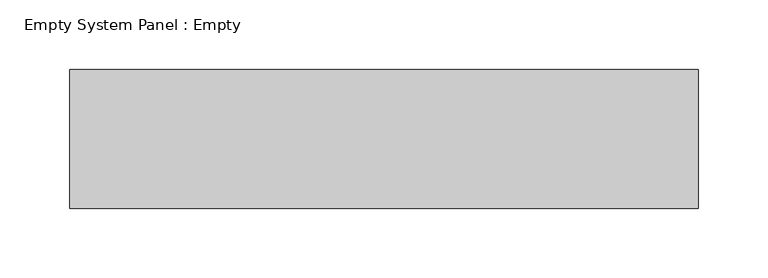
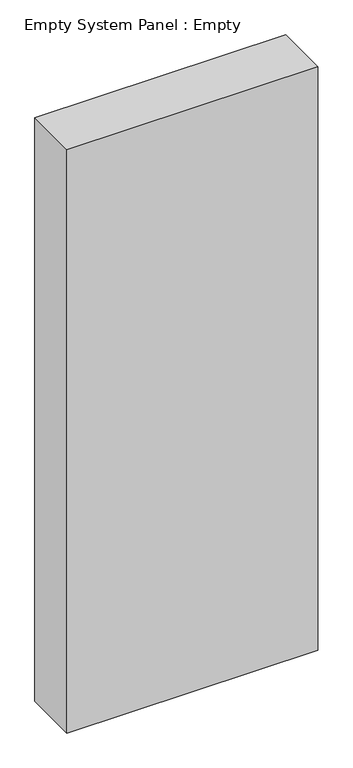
"""IFC4 building model written with IfcOpenShell, lengths in millimetres: plate geometry, Empty System Panel : Empty."""

from ifc_helpers import new_model, si_unit, origin, origin_with_axes, place, context, project, spatial, polyline, outline, extrude, source, transform, mapped, element, save


def empty_system_panel_empty_e6977389(model_context):
    return source(origin(), model_context, "Body", "SweptSolid", [
        extrude(outline(polyline([(226.25, -50.0), (-226.25, -50.0), (-226.25, 50.0), (226.25, 50.0), (226.25, -50.0)])), origin_with_axes(), (0.0, 0.0, 1.0), 1112.5),
    ])


if __name__ == "__main__":
    model = new_model("IFC4")
    model_context = context("Model", 3, world=origin())
    ifc_project = project(units=[si_unit("LENGTHUNIT", "METRE", prefix="MILLI")], contexts=[model_context])
    site = spatial("IfcSite", under=ifc_project)
    building = spatial("IfcBuilding", under=site)
    placement = place(None, origin())
    empty_system_panel_empty_shape = empty_system_panel_empty_e6977389(model_context)
    element("IfcPlate", 1, ObjectType="Empty System Panel : Empty", at=placement, inside=building, context=model_context, shape_type="MappedRepresentation", body=[
        mapped(empty_system_panel_empty_shape, transform((0.0, 0.0, 0.0), x_axis=(1.0, 0.0, 0.0), y_axis=(0.0, 1.0, 0.0), z_axis=(0.0, 0.0, 1.0))),
    ])
    save(model, "model.ifc")
